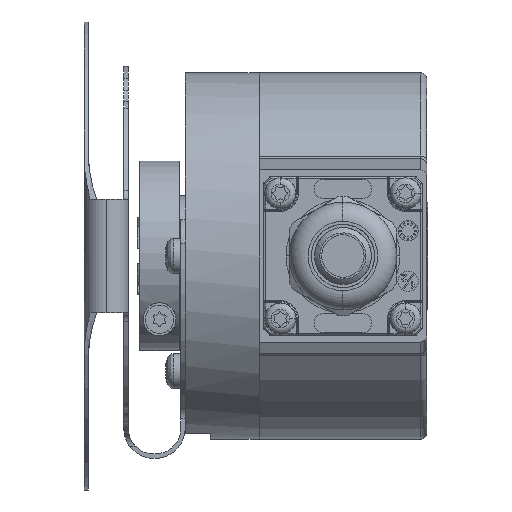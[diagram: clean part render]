
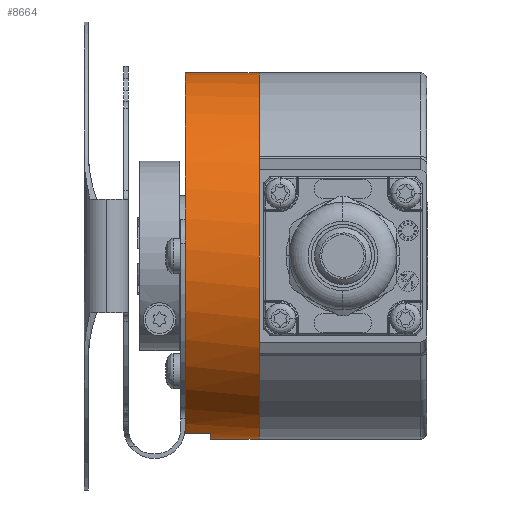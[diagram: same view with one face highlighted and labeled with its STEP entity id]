
A CAD part, front view. The second image highlights one B-rep face of the part: STEP entity #8664.
In plain terms, the highlighted cylindrical face has radius 29 mm (diameter 58 mm), a partial arc.
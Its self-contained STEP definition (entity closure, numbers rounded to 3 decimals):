
#123 = CARTESIAN_POINT ( 'NONE',  ( 8.068, 25.423, -29. ) ) ;
#305 = EDGE_CURVE ( 'NONE', #18778, #4013, #8829, .T. ) ;
#1213 = CYLINDRICAL_SURFACE ( 'NONE', #25243, 29. ) ;
#1280 = DIRECTION ( 'NONE',  ( 1., 0., 0. ) ) ;
#2069 = ORIENTED_EDGE ( 'NONE', *, *, #13363, .F. ) ;
#2163 = AXIS2_PLACEMENT_3D ( 'NONE', #15404, #13224, #15654 ) ;
#3060 = CARTESIAN_POINT ( 'NONE',  ( 0.378, 25.423, -29. ) ) ;
#3704 = CARTESIAN_POINT ( 'NONE',  ( 8.068, 25.423, 29. ) ) ;
#4013 = VERTEX_POINT ( 'NONE', #22244 ) ;
#4186 = CARTESIAN_POINT ( 'NONE',  ( 0.378, 25.423, 0. ) ) ;
#4756 = VECTOR ( 'NONE', #6194, 1000. ) ;
#5232 = DIRECTION ( 'NONE',  ( 0., 0., -1. ) ) ;
#5751 = DIRECTION ( 'NONE',  ( 1., 0., 0. ) ) ;
#5870 = DIRECTION ( 'NONE',  ( 0., 0., 1. ) ) ;
#5998 = AXIS2_PLACEMENT_3D ( 'NONE', #4186, #5751, #5870 ) ;
#6194 = DIRECTION ( 'NONE',  ( 1., 0., 0. ) ) ;
#6449 = EDGE_CURVE ( 'NONE', #14652, #4013, #21305, .T. ) ;
#7124 = CARTESIAN_POINT ( 'NONE',  ( 8.068, 18.423, -28.142 ) ) ;
#7126 = VECTOR ( 'NONE', #14509, 1000. ) ;
#7176 = CARTESIAN_POINT ( 'NONE',  ( 8.068, 25.423, 0. ) ) ;
#8591 = LINE ( 'NONE', #16461, #7126 ) ;
#8664 = ADVANCED_FACE ( 'NONE', ( #24730 ), #1213, .T. ) ;
#8829 = CIRCLE ( 'NONE', #10483, 29. ) ;
#9783 = EDGE_CURVE ( 'NONE', #13599, #12887, #8591, .T. ) ;
#9936 = CARTESIAN_POINT ( 'NONE',  ( 8.068, 25.423, 29. ) ) ;
#10052 = LINE ( 'NONE', #9936, #4756 ) ;
#10165 = EDGE_CURVE ( 'NONE', #16217, #12887, #17401, .T. ) ;
#10483 = AXIS2_PLACEMENT_3D ( 'NONE', #10960, #1280, #15185 ) ;
#10792 = ORIENTED_EDGE ( 'NONE', *, *, #6449, .F. ) ;
#10960 = CARTESIAN_POINT ( 'NONE',  ( -3.622, 25.423, 0. ) ) ;
#11237 = CARTESIAN_POINT ( 'NONE',  ( -3.622, 25.423, 29. ) ) ;
#12422 = EDGE_CURVE ( 'NONE', #14652, #13599, #22513, .T. ) ;
#12627 = ORIENTED_EDGE ( 'NONE', *, *, #305, .T. ) ;
#12887 = VERTEX_POINT ( 'NONE', #123 ) ;
#13224 = DIRECTION ( 'NONE',  ( 1., 0., 0. ) ) ;
#13363 = EDGE_CURVE ( 'NONE', #18778, #16217, #10052, .T. ) ;
#13599 = VERTEX_POINT ( 'NONE', #3060 ) ;
#14321 = CARTESIAN_POINT ( 'NONE',  ( 0.378, 18.423, -28.142 ) ) ;
#14509 = DIRECTION ( 'NONE',  ( 1., 0., 0. ) ) ;
#14652 = VERTEX_POINT ( 'NONE', #14321 ) ;
#15185 = DIRECTION ( 'NONE',  ( 0., 0., -1. ) ) ;
#15404 = CARTESIAN_POINT ( 'NONE',  ( 8.068, 25.423, 0. ) ) ;
#15654 = DIRECTION ( 'NONE',  ( 0., 0., -1. ) ) ;
#16141 = ORIENTED_EDGE ( 'NONE', *, *, #12422, .T. ) ;
#16217 = VERTEX_POINT ( 'NONE', #3704 ) ;
#16461 = CARTESIAN_POINT ( 'NONE',  ( 8.068, 25.423, -29. ) ) ;
#17286 = EDGE_LOOP ( 'NONE', ( #2069, #12627, #10792, #16141, #21295, #23119 ) ) ;
#17401 = CIRCLE ( 'NONE', #2163, 29. ) ;
#18778 = VERTEX_POINT ( 'NONE', #11237 ) ;
#21295 = ORIENTED_EDGE ( 'NONE', *, *, #9783, .T. ) ;
#21305 = LINE ( 'NONE', #7124, #23943 ) ;
#22244 = CARTESIAN_POINT ( 'NONE',  ( -3.622, 18.423, -28.142 ) ) ;
#22513 = CIRCLE ( 'NONE', #5998, 29. ) ;
#22918 = DIRECTION ( 'NONE',  ( 1., 0., 0. ) ) ;
#23119 = ORIENTED_EDGE ( 'NONE', *, *, #10165, .F. ) ;
#23943 = VECTOR ( 'NONE', #25334, 1000. ) ;
#24730 = FACE_OUTER_BOUND ( 'NONE', #17286, .T. ) ;
#25243 = AXIS2_PLACEMENT_3D ( 'NONE', #7176, #22918, #5232 ) ;
#25334 = DIRECTION ( 'NONE',  ( -1., 0., 0. ) ) ;
